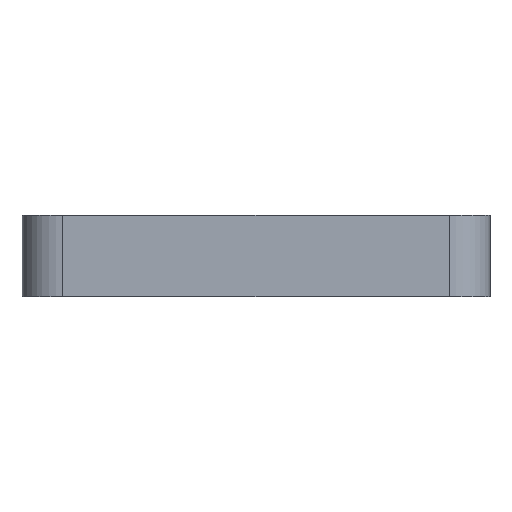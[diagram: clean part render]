
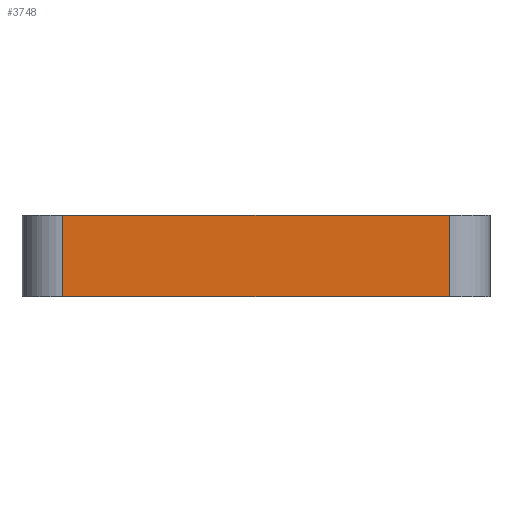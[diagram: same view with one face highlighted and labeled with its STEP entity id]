
A CAD part, front view. The second image highlights one B-rep face of the part: STEP entity #3748.
In plain terms, the highlighted planar face has unit normal (0, -1, 0).
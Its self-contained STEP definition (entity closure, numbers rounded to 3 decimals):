
#45=DIRECTION('',(1.,0.,0.));
#46=VECTOR('',#45,19.);
#47=CARTESIAN_POINT('',(-9.5,-8.5,0.));
#48=LINE('',#47,#46);
#100=DIRECTION('',(1.,0.,0.));
#101=VECTOR('',#100,19.);
#102=CARTESIAN_POINT('',(-9.5,-8.5,4.));
#103=LINE('',#102,#101);
#874=DIRECTION('',(0.,0.,-1.));
#875=VECTOR('',#874,4.);
#876=CARTESIAN_POINT('',(-9.5,-8.5,4.));
#877=LINE('',#876,#875);
#878=DIRECTION('',(0.,0.,-1.));
#879=VECTOR('',#878,4.);
#880=CARTESIAN_POINT('',(9.5,-8.5,4.));
#881=LINE('',#880,#879);
#2394=CARTESIAN_POINT('',(-9.5,-8.5,0.));
#2396=VERTEX_POINT('',#2394);
#2400=CARTESIAN_POINT('',(-9.5,-8.5,4.));
#2401=VERTEX_POINT('',#2400);
#2403=CARTESIAN_POINT('',(9.5,-8.5,0.));
#2405=VERTEX_POINT('',#2403);
#2406=CARTESIAN_POINT('',(9.5,-8.5,4.));
#2407=VERTEX_POINT('',#2406);
#3736=CARTESIAN_POINT('',(-11.5,-8.5,0.));
#3737=DIRECTION('',(0.,-1.,0.));
#3738=DIRECTION('',(1.,0.,0.));
#3739=AXIS2_PLACEMENT_3D('',#3736,#3737,#3738);
#3740=PLANE('',#3739);
#3742=ORIENTED_EDGE('',*,*,#3741,.F.);
#3743=ORIENTED_EDGE('',*,*,#3229,.T.);
#3744=ORIENTED_EDGE('',*,*,#3729,.T.);
#3745=ORIENTED_EDGE('',*,*,#3169,.F.);
#3746=EDGE_LOOP('',(#3742,#3743,#3744,#3745));
#3747=FACE_OUTER_BOUND('',#3746,.F.);
#3748=ADVANCED_FACE('',(#3747),#3740,.T.);
#3169=EDGE_CURVE('',#2396,#2405,#48,.T.);
#3229=EDGE_CURVE('',#2401,#2407,#103,.T.);
#3729=EDGE_CURVE('',#2407,#2405,#881,.T.);
#3741=EDGE_CURVE('',#2401,#2396,#877,.T.);
